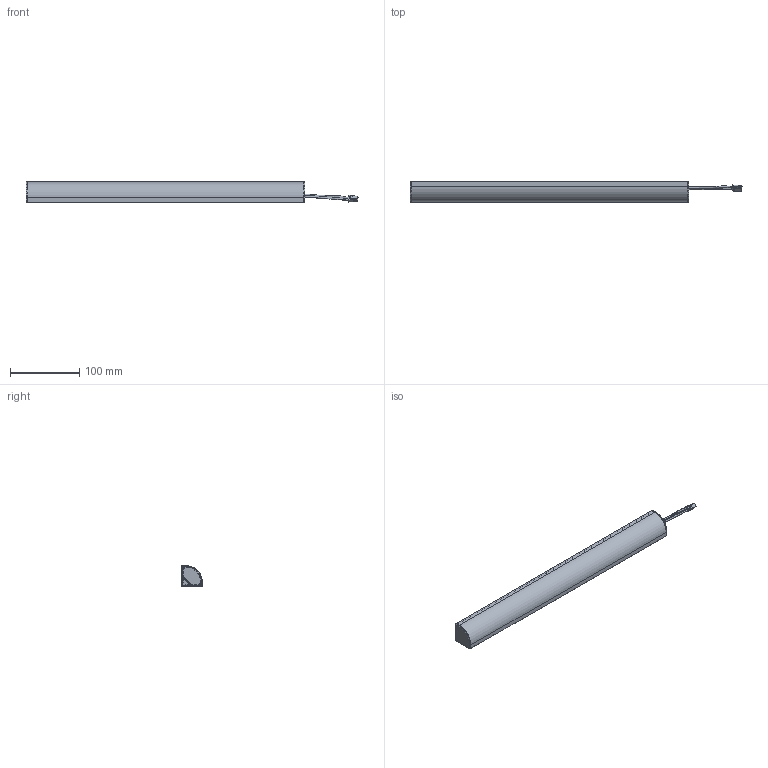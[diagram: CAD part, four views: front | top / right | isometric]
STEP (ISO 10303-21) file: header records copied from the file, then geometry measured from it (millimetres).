
FILE_DESCRIPTION (( 'STEP AP214' ), '1' );
FILE_NAME ('CesenaBigCompleto.STEP', '2022-02-17T14:40:21', ( '' ), ( '' ), 'SwSTEP 2.0', 'SolidWorks 2021', '' );
FILE_SCHEMA (( 'AUTOMOTIVE_DESIGN' ));
Length unit declared in the file: millimetre
Products named in the file (1): CesenaBigCompleto
Bounding box: 480.54 x 30.02 x 30.03 mm (x, y, z)
Surface area: 105645.6 mm2 (no closed solid volume)
Topology: 0 solids, 8 shells, 472 faces, 1220 edges, 756 vertices
Faces by surface type: plane 232, cylinder 162, bspline 75, sphere 3
Entity records: 26768 total; most frequent: CARTESIAN_POINT 11589, ORIENTED_EDGE 2404, DIRECTION 1500, EDGE_CURVE 1210, VERTEX_POINT 756, B_SPLINE_CURVE_WITH_KNOTS 578, VECTOR 504, LINE 504
